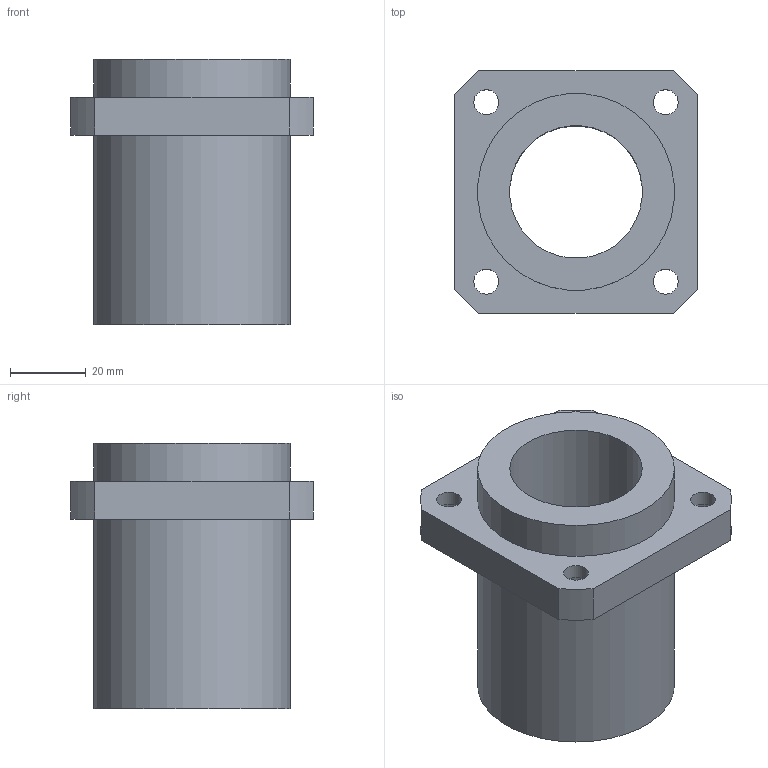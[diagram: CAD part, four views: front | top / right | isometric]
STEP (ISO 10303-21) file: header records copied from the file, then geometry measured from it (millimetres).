
FILE_DESCRIPTION(/* description */ (''),/* implementation_level */ '2;1');
FILE_NAME(/* name */ 'LMKP35UU',/* time_stamp */ '2019-07-10T08:52:00+02:00',/* author */ ('VĂ©gh MĂˇtĂ©'),/* organization */ ('Bearing Kft'),/* preprocessor_version */ 'ST-DEVELOPER v16.7',/* originating_system */ 'DEX',/* authorisation */ $);
FILE_SCHEMA (('AUTOMOTIVE_DESIGN {1 0 10303 214 3 1 1}'));
Length unit declared in the file: millimetre
Products named in the file (1): LMKP35UU
Bounding box: 64 x 64 x 70 mm (x, y, z)
Volume: 97429.1 mm3; surface area: 26935.4 mm2
Topology: 1 solids, 1 shells, 341 faces, 862 edges, 576 vertices
Faces by surface type: plane 261, bspline 63, cylinder 17
Full cylindrical faces by diameter (mm): 6.6 x4, 11 x4, 35 x1, 52 x2
Entity records: 12978 total; most frequent: CARTESIAN_POINT 5163, ORIENTED_EDGE 1692, DIRECTION 1312, EDGE_CURVE 846, LINE 686, VECTOR 686, VERTEX_POINT 572, EDGE_LOOP 416
